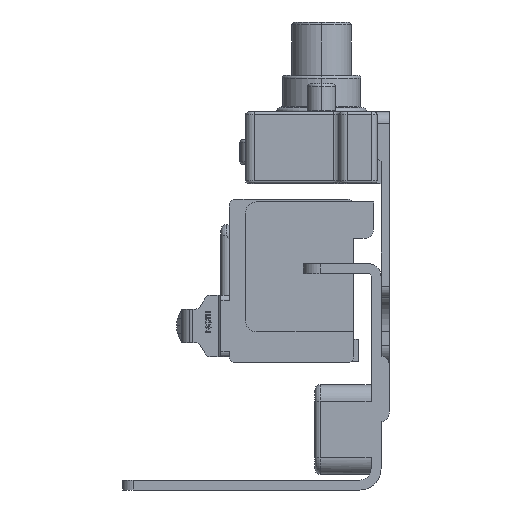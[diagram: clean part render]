
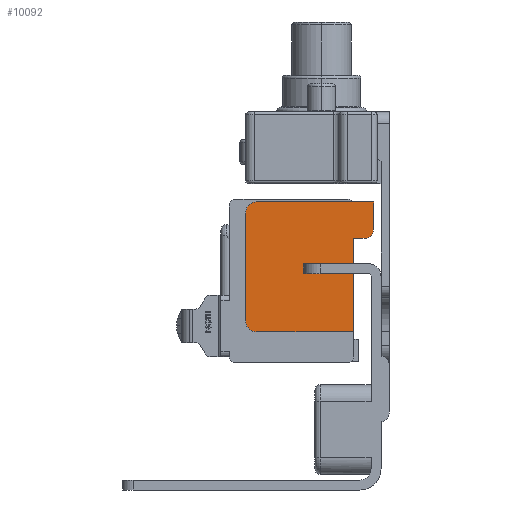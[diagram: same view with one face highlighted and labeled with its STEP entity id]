
A CAD part, left-side view. The second image highlights one B-rep face of the part: STEP entity #10092.
In plain terms, the highlighted planar face has unit normal (-1, 0, 0).
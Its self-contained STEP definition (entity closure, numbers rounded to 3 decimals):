
#1 = LINE ( 'NONE', #2257, #3189 ) ;
#49 = AXIS2_PLACEMENT_3D ( 'NONE', #3268, #11796, #4492 ) ;
#505 = CARTESIAN_POINT ( 'NONE',  ( -114.1, 1.33, -18.365 ) ) ;
#511 = VECTOR ( 'NONE', #12968, 1000. ) ;
#561 = DIRECTION ( 'NONE',  ( 0., 0., 1. ) ) ;
#733 = EDGE_CURVE ( 'NONE', #10857, #861, #1, .T. ) ;
#859 = DIRECTION ( 'NONE',  ( 1., 0., 0. ) ) ;
#861 = VERTEX_POINT ( 'NONE', #1898 ) ;
#870 = DIRECTION ( 'NONE',  ( 0., 1., 0. ) ) ;
#1026 = DIRECTION ( 'NONE',  ( 0., 0., -1. ) ) ;
#1287 = ORIENTED_EDGE ( 'NONE', *, *, #6469, .T. ) ;
#1696 = AXIS2_PLACEMENT_3D ( 'NONE', #6479, #14975, #7688 ) ;
#1723 = DIRECTION ( 'NONE',  ( 0., 0., 1. ) ) ;
#1771 = ORIENTED_EDGE ( 'NONE', *, *, #7157, .T. ) ;
#1840 = ORIENTED_EDGE ( 'NONE', *, *, #3876, .T. ) ;
#1861 = EDGE_CURVE ( 'NONE', #13683, #1890, #5808, .T. ) ;
#1868 = VERTEX_POINT ( 'NONE', #13111 ) ;
#1890 = VERTEX_POINT ( 'NONE', #15602 ) ;
#1898 = CARTESIAN_POINT ( 'NONE',  ( -114.1, 4.9, -34.995 ) ) ;
#2257 = CARTESIAN_POINT ( 'NONE',  ( -114.1, 21.53, -34.995 ) ) ;
#2337 = CARTESIAN_POINT ( 'NONE',  ( -114.1, 13.821, -24.63 ) ) ;
#2425 = CARTESIAN_POINT ( 'NONE',  ( -114.1, 13.821, -24.63 ) ) ;
#2597 = VECTOR ( 'NONE', #1026, 1000. ) ;
#2715 = ORIENTED_EDGE ( 'NONE', *, *, #9643, .T. ) ;
#2997 = PLANE ( 'NONE',  #3671 ) ;
#3011 = VECTOR ( 'NONE', #8216, 1000. ) ;
#3189 = VECTOR ( 'NONE', #12042, 1000. ) ;
#3268 = CARTESIAN_POINT ( 'NONE',  ( -114.1, 22.13, -13.895 ) ) ;
#3322 = CARTESIAN_POINT ( 'NONE',  ( -114.1, 2.83, -18.365 ) ) ;
#3384 = EDGE_CURVE ( 'NONE', #13683, #4951, #6739, .T. ) ;
#3514 = ORIENTED_EDGE ( 'NONE', *, *, #11188, .F. ) ;
#3671 = AXIS2_PLACEMENT_3D ( 'NONE', #11633, #4325, #12840 ) ;
#3841 = LINE ( 'NONE', #15325, #12776 ) ;
#3876 = EDGE_CURVE ( 'NONE', #861, #6917, #12808, .T. ) ;
#4316 = ORIENTED_EDGE ( 'NONE', *, *, #9539, .T. ) ;
#4325 = DIRECTION ( 'NONE',  ( 1., 0., 0. ) ) ;
#4339 = ORIENTED_EDGE ( 'NONE', *, *, #3384, .T. ) ;
#4441 = CARTESIAN_POINT ( 'NONE',  ( -114.1, 1.33, -11.895 ) ) ;
#4492 = DIRECTION ( 'NONE',  ( 0., 0., -1. ) ) ;
#4501 = CARTESIAN_POINT ( 'NONE',  ( -114.1, 24.13, -32.995 ) ) ;
#4923 = EDGE_CURVE ( 'NONE', #1868, #4951, #5536, .T. ) ;
#4951 = VERTEX_POINT ( 'NONE', #3322 ) ;
#4974 = CARTESIAN_POINT ( 'NONE',  ( -114.1, 4.9, -24.63 ) ) ;
#5145 = CARTESIAN_POINT ( 'NONE',  ( -114.1, 13.821, -22.86 ) ) ;
#5331 = VERTEX_POINT ( 'NONE', #14954 ) ;
#5441 = VECTOR ( 'NONE', #870, 1000. ) ;
#5536 = CIRCLE ( 'NONE', #7055, 1.5 ) ;
#5651 = ORIENTED_EDGE ( 'NONE', *, *, #1861, .F. ) ;
#5690 = VECTOR ( 'NONE', #1723, 1000. ) ;
#5808 = LINE ( 'NONE', #14326, #2597 ) ;
#5816 = LINE ( 'NONE', #4441, #5441 ) ;
#6336 = VECTOR ( 'NONE', #561, 1000. ) ;
#6469 = EDGE_CURVE ( 'NONE', #1868, #5331, #12193, .T. ) ;
#6479 = CARTESIAN_POINT ( 'NONE',  ( -114.1, 22.13, -32.995 ) ) ;
#6739 = LINE ( 'NONE', #7062, #12823 ) ;
#6829 = DIRECTION ( 'NONE',  ( 0., -1., 0. ) ) ;
#6917 = VERTEX_POINT ( 'NONE', #4974 ) ;
#6972 = VECTOR ( 'NONE', #7205, 1000. ) ;
#7055 = AXIS2_PLACEMENT_3D ( 'NONE', #8108, #859, #9356 ) ;
#7062 = CARTESIAN_POINT ( 'NONE',  ( -114.1, 20.06, -18.365 ) ) ;
#7157 = EDGE_CURVE ( 'NONE', #6917, #14136, #12729, .T. ) ;
#7205 = DIRECTION ( 'NONE',  ( 0., 0., 1. ) ) ;
#7688 = DIRECTION ( 'NONE',  ( 0., 0., -1. ) ) ;
#8108 = CARTESIAN_POINT ( 'NONE',  ( -114.1, 2.83, -16.865 ) ) ;
#8133 = CARTESIAN_POINT ( 'NONE',  ( -114.1, 24.13, -32.995 ) ) ;
#8216 = DIRECTION ( 'NONE',  ( 0., 1., 0. ) ) ;
#8496 = CARTESIAN_POINT ( 'NONE',  ( -114.1, 22.13, -11.895 ) ) ;
#9356 = DIRECTION ( 'NONE',  ( 0., 0., 1. ) ) ;
#9527 = DIRECTION ( 'NONE',  ( 0., -1., 0. ) ) ;
#9539 = EDGE_CURVE ( 'NONE', #14136, #11583, #10229, .T. ) ;
#9643 = EDGE_CURVE ( 'NONE', #5331, #11422, #5816, .T. ) ;
#10092 = ADVANCED_FACE ( 'NONE', ( #13034 ), #2997, .F. ) ;
#10147 = CIRCLE ( 'NONE', #1696, 2. ) ;
#10229 = LINE ( 'NONE', #2337, #6972 ) ;
#10272 = CARTESIAN_POINT ( 'NONE',  ( -114.1, 4.9, -26.295 ) ) ;
#10317 = ORIENTED_EDGE ( 'NONE', *, *, #733, .T. ) ;
#10597 = EDGE_CURVE ( 'NONE', #15567, #15197, #13405, .T. ) ;
#10857 = VERTEX_POINT ( 'NONE', #14712 ) ;
#11188 = EDGE_CURVE ( 'NONE', #15197, #11422, #12267, .T. ) ;
#11225 = CARTESIAN_POINT ( 'NONE',  ( -114.1, 4.9, -18.365 ) ) ;
#11422 = VERTEX_POINT ( 'NONE', #8496 ) ;
#11583 = VERTEX_POINT ( 'NONE', #5145 ) ;
#11633 = CARTESIAN_POINT ( 'NONE',  ( -114.1, 21.53, -26.295 ) ) ;
#11696 = EDGE_LOOP ( 'NONE', ( #15000, #5651, #4339, #11885, #1287, #2715, #3514, #13673, #14145, #10317, #1840, #1771, #4316 ) ) ;
#11796 = DIRECTION ( 'NONE',  ( 1., 0., 0. ) ) ;
#11885 = ORIENTED_EDGE ( 'NONE', *, *, #4923, .F. ) ;
#12042 = DIRECTION ( 'NONE',  ( 0., -1., 0. ) ) ;
#12193 = LINE ( 'NONE', #505, #5690 ) ;
#12267 = CIRCLE ( 'NONE', #49, 2. ) ;
#12729 = LINE ( 'NONE', #13038, #3011 ) ;
#12776 = VECTOR ( 'NONE', #6829, 1000. ) ;
#12808 = LINE ( 'NONE', #10272, #6336 ) ;
#12823 = VECTOR ( 'NONE', #9527, 1000. ) ;
#12840 = DIRECTION ( 'NONE',  ( 0., 0., 1. ) ) ;
#12968 = DIRECTION ( 'NONE',  ( 0., 0., 1. ) ) ;
#13034 = FACE_OUTER_BOUND ( 'NONE', #11696, .T. ) ;
#13038 = CARTESIAN_POINT ( 'NONE',  ( -114.1, 12.15, -24.63 ) ) ;
#13111 = CARTESIAN_POINT ( 'NONE',  ( -114.1, 1.33, -16.865 ) ) ;
#13405 = LINE ( 'NONE', #8133, #511 ) ;
#13673 = ORIENTED_EDGE ( 'NONE', *, *, #10597, .F. ) ;
#13683 = VERTEX_POINT ( 'NONE', #11225 ) ;
#13742 = EDGE_CURVE ( 'NONE', #10857, #15567, #10147, .T. ) ;
#14136 = VERTEX_POINT ( 'NONE', #2425 ) ;
#14145 = ORIENTED_EDGE ( 'NONE', *, *, #13742, .F. ) ;
#14326 = CARTESIAN_POINT ( 'NONE',  ( -114.1, 4.9, -34.995 ) ) ;
#14452 = EDGE_CURVE ( 'NONE', #11583, #1890, #3841, .T. ) ;
#14712 = CARTESIAN_POINT ( 'NONE',  ( -114.1, 22.13, -34.995 ) ) ;
#14954 = CARTESIAN_POINT ( 'NONE',  ( -114.1, 1.33, -11.895 ) ) ;
#14975 = DIRECTION ( 'NONE',  ( 1., 0., 0. ) ) ;
#15000 = ORIENTED_EDGE ( 'NONE', *, *, #14452, .T. ) ;
#15197 = VERTEX_POINT ( 'NONE', #15619 ) ;
#15325 = CARTESIAN_POINT ( 'NONE',  ( -114.1, 12.42, -22.86 ) ) ;
#15567 = VERTEX_POINT ( 'NONE', #4501 ) ;
#15602 = CARTESIAN_POINT ( 'NONE',  ( -114.1, 4.9, -22.86 ) ) ;
#15619 = CARTESIAN_POINT ( 'NONE',  ( -114.1, 24.13, -13.895 ) ) ;
